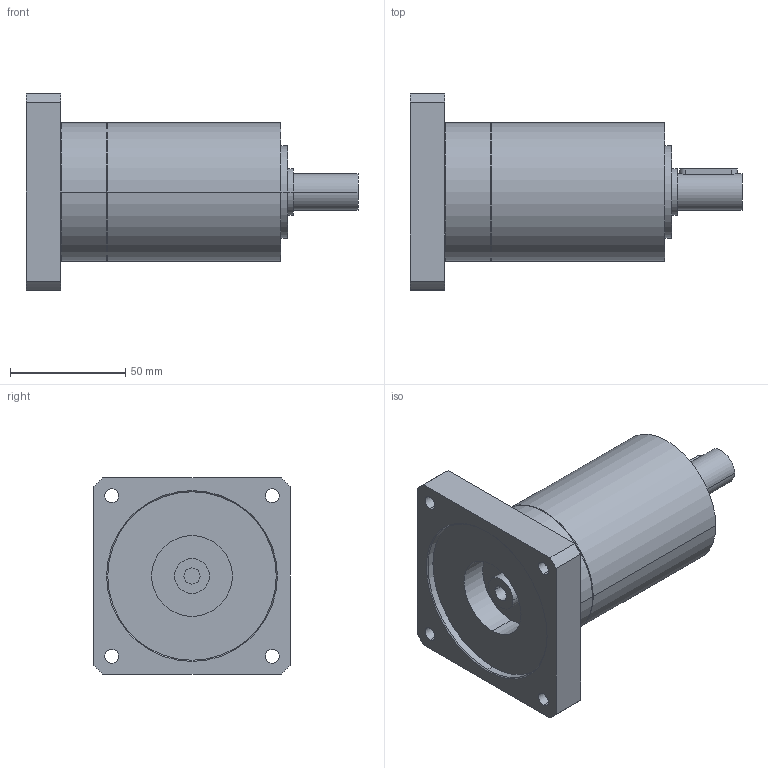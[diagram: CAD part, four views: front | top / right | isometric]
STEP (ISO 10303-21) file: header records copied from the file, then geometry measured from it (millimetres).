
FILE_DESCRIPTION(('CoCreate Modeling STEP Export'),'2;1');
FILE_NAME('GPR75_ig-9-12-16-20-24-30-36_16_B14_7_P36.stp','2014-08-25T16:05:44',(''),(''),'CoCreate Modeling STEP processor for AP214 (Solid Model)','CoCreate Modeling 16.00C 25-Feb-2009 (C) Parametric Technology GmbH','');
FILE_SCHEMA(('AUTOMOTIVE_DESIGN { 1 0 10303 214 1 1 1 1 }'));
Length unit declared in the file: millimetre
Products named in the file (2): GPR75_ig-9-12-16-20-24-30-36_16_B14_7_P36
Assembly tree (1 placements, depth 2):
  GPR75_ig-9-12-16-20-24-30-36_16_B14_7_P36
    GPR75_ig-9-12-16-20-24-30-36_16_B14_7_P36
Bounding box: 143.9 x 85 x 85 mm (x, y, z)
Volume: 360102 mm3; surface area: 44016 mm2
Topology: 1 solids, 1 shells, 72 faces, 188 edges, 130 vertices
Faces by surface type: cylinder 42, plane 22, cone 8
Entity records: 1959 total; most frequent: ORIENTED_EDGE 372, CARTESIAN_POINT 362, DIRECTION 268, EDGE_CURVE 186, VERTEX_POINT 130, AXIS2_PLACEMENT_3D 100, EDGE_LOOP 94, FACE_OUTER_BOUND 72
